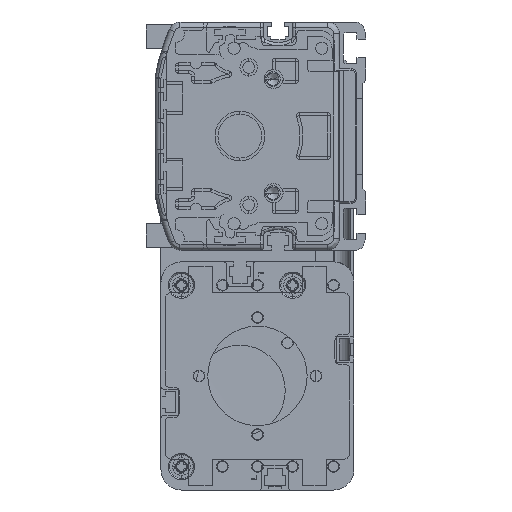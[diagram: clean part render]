
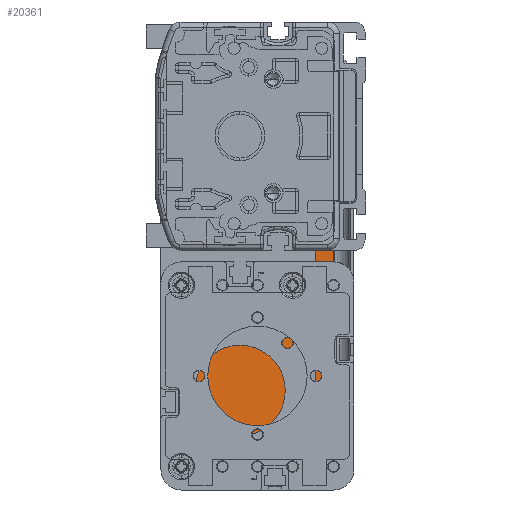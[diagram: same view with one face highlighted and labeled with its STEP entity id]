
A CAD part, left-side view. The second image highlights one B-rep face of the part: STEP entity #20361.
In plain terms, the highlighted spherical face has radius 998.8 mm.
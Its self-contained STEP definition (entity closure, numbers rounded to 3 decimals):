
#13148=CARTESIAN_POINT('',(1025.688,44.777,
-111.569));
#13149=CARTESIAN_POINT('',(1025.741,44.493,
-110.776));
#13150=CARTESIAN_POINT('',(1025.841,43.643,
-109.292));
#13151=CARTESIAN_POINT('',(1025.952,41.684,
-107.641));
#13152=CARTESIAN_POINT('',(1026.011,39.279,
-106.764));
#13153=CARTESIAN_POINT('',(1026.011,36.72,
-106.764));
#13154=CARTESIAN_POINT('',(1025.952,34.316,
-107.642));
#13155=CARTESIAN_POINT('',(1025.841,32.356,
-109.293));
#13156=CARTESIAN_POINT('',(1025.741,31.507,
-110.776));
#13157=CARTESIAN_POINT('',(1025.688,31.223,
-111.569));
#13175=CARTESIAN_POINT('',(1025.688,31.223,17.569));
#13176=CARTESIAN_POINT('',(1025.741,31.506,16.779));
#13177=CARTESIAN_POINT('',(1025.84,32.352,15.299));
#13178=CARTESIAN_POINT('',(1025.952,34.313,13.642));
#13179=CARTESIAN_POINT('',(1026.011,36.72,12.764));
#13180=CARTESIAN_POINT('',(1026.011,39.281,12.764));
#13181=CARTESIAN_POINT('',(1025.952,41.688,13.643));
#13182=CARTESIAN_POINT('',(1025.84,43.649,15.3));
#13183=CARTESIAN_POINT('',(1025.741,44.494,16.78));
#13184=CARTESIAN_POINT('',(1025.688,44.777,17.569));
#13186=CARTESIAN_POINT('',(29.,38.,-111.569));
#13187=DIRECTION('',(0.,0.,1.));
#13188=DIRECTION('',(1.,-0.026,0.));
#13189=AXIS2_PLACEMENT_3D('',#13186,#13187,#13188);
#13209=CARTESIAN_POINT('',(29.,38.,-111.569));
#13210=DIRECTION('',(0.,0.,1.));
#13211=DIRECTION('',(1.,0.007,0.));
#13212=AXIS2_PLACEMENT_3D('',#13209,#13210,#13211);
#13221=CARTESIAN_POINT('',(29.,11.848,-47.));
#13222=DIRECTION('',(0.,1.,0.));
#13223=DIRECTION('',(0.998,0.,0.065));
#13224=AXIS2_PLACEMENT_3D('',#13221,#13222,#13223);
#13268=CARTESIAN_POINT('',(29.,38.,17.569));
#13269=DIRECTION('',(0.,0.,-1.));
#13270=DIRECTION('',(1.,0.026,0.));
#13271=AXIS2_PLACEMENT_3D('',#13268,#13269,#13270);
#13282=CARTESIAN_POINT('',(29.,38.,17.569));
#13283=DIRECTION('',(0.,0.,-1.));
#13284=DIRECTION('',(1.,-0.007,0.));
#13285=AXIS2_PLACEMENT_3D('',#13282,#13283,#13284);
#13348=CARTESIAN_POINT('',(29.,64.152,-47.));
#13349=DIRECTION('',(0.,-1.,0.));
#13350=DIRECTION('',(0.998,0.,-0.065));
#13351=AXIS2_PLACEMENT_3D('',#13348,#13349,#13350);
#19063=VERTEX_POINT('',#13148);
#19064=VERTEX_POINT('',#13157);
#19065=CARTESIAN_POINT('',(1025.368,11.848,
-111.569));
#19066=VERTEX_POINT('',#19065);
#19067=CARTESIAN_POINT('',(1025.368,11.848,17.569));
#19068=VERTEX_POINT('',#19067);
#19069=CARTESIAN_POINT('',(1025.688,31.223,17.569));
#19070=VERTEX_POINT('',#19069);
#19071=VERTEX_POINT('',#13184);
#19072=CARTESIAN_POINT('',(1025.368,64.152,17.569));
#19073=VERTEX_POINT('',#19072);
#19074=CARTESIAN_POINT('',(1025.368,64.152,
-111.569));
#19075=VERTEX_POINT('',#19074);
#20339=CARTESIAN_POINT('',(29.,38.,-47.));
#20340=DIRECTION('',(0.,0.,-1.));
#20341=DIRECTION('',(1.,0.,0.));
#20342=AXIS2_PLACEMENT_3D('',#20339,#20340,#20341);
#20343=SPHERICAL_SURFACE('',#20342,998.8);
#20344=ORIENTED_EDGE('',*,*,#20329,.F.);
#20346=ORIENTED_EDGE('',*,*,#20345,.T.);
#20348=ORIENTED_EDGE('',*,*,#20347,.T.);
#20350=ORIENTED_EDGE('',*,*,#20349,.T.);
#20352=ORIENTED_EDGE('',*,*,#20351,.F.);
#20354=ORIENTED_EDGE('',*,*,#20353,.T.);
#20356=ORIENTED_EDGE('',*,*,#20355,.T.);
#20358=ORIENTED_EDGE('',*,*,#20357,.T.);
#20359=EDGE_LOOP('',(#20344,#20346,#20348,#20350,#20352,#20354,#20356,#20358));
#20360=FACE_OUTER_BOUND('',#20359,.F.);
#20361=ADVANCED_FACE('',(#20360),#20343,.F.);
#13158=B_SPLINE_CURVE_WITH_KNOTS('',3,(#13148,#13149,#13150,#13151,#13152,
#13153,#13154,#13155,#13156,#13157),.UNSPECIFIED.,.F.,.F.,(4,1,1,1,1,1,1,4),(
0.,0.143,0.286,0.429,0.571,
0.714,0.857,1.),.UNSPECIFIED.);
#13185=B_SPLINE_CURVE_WITH_KNOTS('',3,(#13175,#13176,#13177,#13178,#13179,
#13180,#13181,#13182,#13183,#13184),.UNSPECIFIED.,.F.,.F.,(4,1,1,1,1,1,1,4),(
0.,0.143,0.286,0.429,0.571,
0.714,0.857,1.),.UNSPECIFIED.);
#13190=CIRCLE('',#13189,996.711);
#13213=CIRCLE('',#13212,996.711);
#13225=CIRCLE('',#13224,998.458);
#13272=CIRCLE('',#13271,996.711);
#13286=CIRCLE('',#13285,996.711);
#13352=CIRCLE('',#13351,998.458);
#20329=EDGE_CURVE('',#19063,#19064,#13158,.T.);
#20345=EDGE_CURVE('',#19063,#19075,#13213,.T.);
#20347=EDGE_CURVE('',#19075,#19073,#13352,.T.);
#20349=EDGE_CURVE('',#19073,#19071,#13272,.T.);
#20351=EDGE_CURVE('',#19070,#19071,#13185,.T.);
#20353=EDGE_CURVE('',#19070,#19068,#13286,.T.);
#20355=EDGE_CURVE('',#19068,#19066,#13225,.T.);
#20357=EDGE_CURVE('',#19066,#19064,#13190,.T.);
